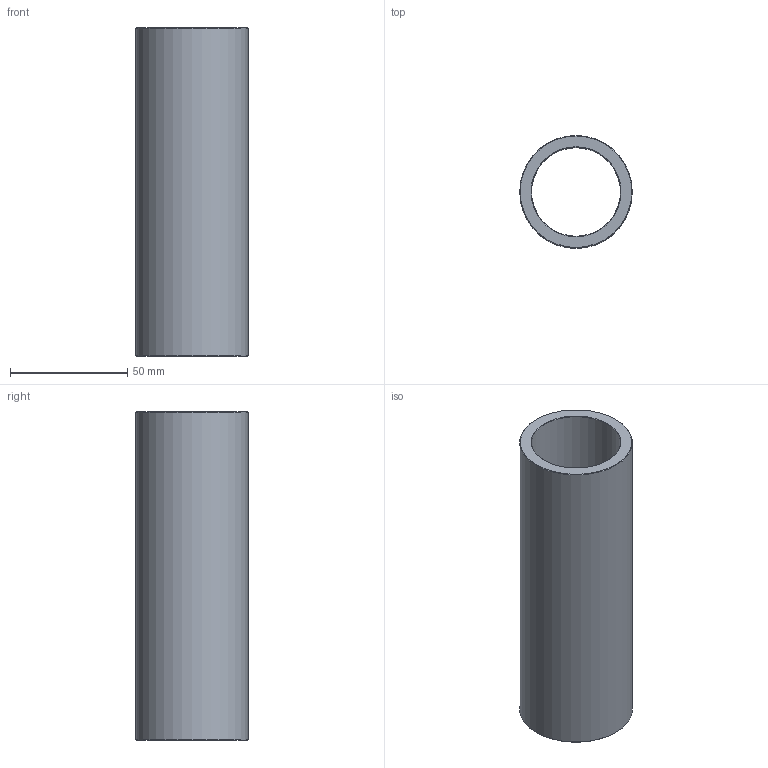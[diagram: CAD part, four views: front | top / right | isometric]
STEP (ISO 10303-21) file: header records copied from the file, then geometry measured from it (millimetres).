
FILE_DESCRIPTION(('STEP AP203'),'1');
FILE_NAME('C:/Users/Rodrigo/Desktop/GA5.038.140-1.step','2016-11-07T18:03:50',(' '),(' '),'Spatial InterOp 3D',' ',' ');
FILE_SCHEMA(('CONFIG_CONTROL_DESIGN'));
Length unit declared in the file: millimetre
Products named in the file (1): 1
Bounding box: 48 x 48 x 140 mm (x, y, z)
Volume: 94551.1 mm3; surface area: 39112.4 mm2
Topology: 1 solids, 1 shells, 8 faces, 14 edges, 8 vertices
Faces by surface type: cone 4, cylinder 2, plane 2
Full cylindrical faces by diameter (mm): 38 x1, 48 x1
Entity records: 212 total; most frequent: DIRECTION 34, CARTESIAN_POINT 25, AXIS2_PLACEMENT_3D 17, EDGE_LOOP 16, ORIENTED_EDGE 16, FACE_OUTER_BOUND 10, ADVANCED_FACE 8, EDGE_CURVE 8
